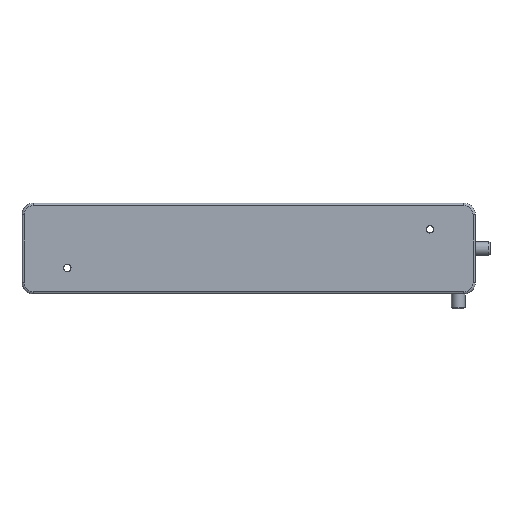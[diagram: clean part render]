
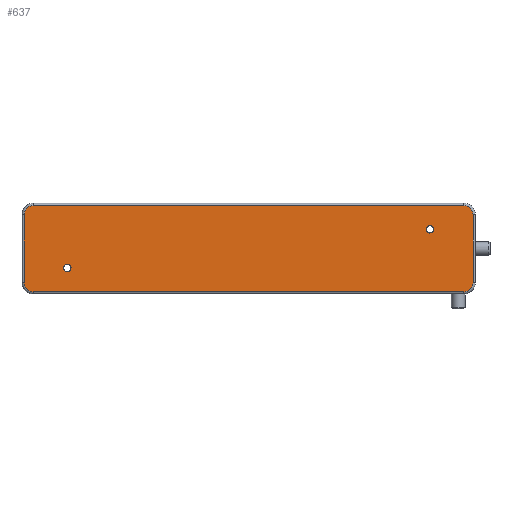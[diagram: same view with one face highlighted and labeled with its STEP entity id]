
A CAD part, top view. The second image highlights one B-rep face of the part: STEP entity #637.
In plain terms, the highlighted planar face has unit normal (0, 0, 1).
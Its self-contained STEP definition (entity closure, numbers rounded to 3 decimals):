
#14 = VERTEX_POINT ( 'NONE', #711 ) ;
#36 = ORIENTED_EDGE ( 'NONE', *, *, #1082, .T. ) ;
#38 = DIRECTION ( 'NONE',  ( 1., 0., 0. ) ) ;
#48 = EDGE_CURVE ( 'NONE', #427, #188, #1157, .T. ) ;
#54 = ORIENTED_EDGE ( 'NONE', *, *, #1092, .T. ) ;
#57 = DIRECTION ( 'NONE',  ( 0., 0., 1. ) ) ;
#68 = CARTESIAN_POINT ( 'NONE',  ( 10., 10., 12.5 ) ) ;
#92 = DIRECTION ( 'NONE',  ( 1., 0., 0. ) ) ;
#96 = AXIS2_PLACEMENT_3D ( 'NONE', #418, #235, #702 ) ;
#99 = CIRCLE ( 'NONE', #96, 8. ) ;
#109 = CARTESIAN_POINT ( 'NONE',  ( 390., 70., 12.5 ) ) ;
#128 = VERTEX_POINT ( 'NONE', #1058 ) ;
#141 = FACE_BOUND ( 'NONE', #499, .T. ) ;
#142 = EDGE_CURVE ( 'NONE', #128, #780, #902, .T. ) ;
#143 = CARTESIAN_POINT ( 'NONE',  ( 360., 57., 12.5 ) ) ;
#182 = EDGE_CURVE ( 'NONE', #1138, #14, #1043, .T. ) ;
#188 = VERTEX_POINT ( 'NONE', #807 ) ;
#200 = AXIS2_PLACEMENT_3D ( 'NONE', #480, #1015, #38 ) ;
#229 = CIRCLE ( 'NONE', #200, 3.25 ) ;
#235 = DIRECTION ( 'NONE',  ( 0., 0., 1. ) ) ;
#260 = EDGE_CURVE ( 'NONE', #551, #551, #229, .T. ) ;
#264 = ORIENTED_EDGE ( 'NONE', *, *, #142, .T. ) ;
#270 = ORIENTED_EDGE ( 'NONE', *, *, #182, .T. ) ;
#272 = CARTESIAN_POINT ( 'NONE',  ( 2., 70., 12.5 ) ) ;
#291 = DIRECTION ( 'NONE',  ( 0., 0., 1. ) ) ;
#300 = DIRECTION ( 'NONE',  ( -1., 0., 0. ) ) ;
#304 = ORIENTED_EDGE ( 'NONE', *, *, #915, .T. ) ;
#309 = PLANE ( 'NONE',  #405 ) ;
#318 = CARTESIAN_POINT ( 'NONE',  ( 43.25, 23., 12.5 ) ) ;
#347 = CARTESIAN_POINT ( 'NONE',  ( 0., 2., 12.5 ) ) ;
#355 = CARTESIAN_POINT ( 'NONE',  ( 0., 78., 12.5 ) ) ;
#357 = CARTESIAN_POINT ( 'NONE',  ( 2., 0., 12.5 ) ) ;
#396 = CARTESIAN_POINT ( 'NONE',  ( 363.25, 57., 12.5 ) ) ;
#405 = AXIS2_PLACEMENT_3D ( 'NONE', #832, #568, #300 ) ;
#418 = CARTESIAN_POINT ( 'NONE',  ( 10., 70., 12.5 ) ) ;
#426 = DIRECTION ( 'NONE',  ( -1., 0., 0. ) ) ;
#427 = VERTEX_POINT ( 'NONE', #272 ) ;
#474 = DIRECTION ( 'NONE',  ( -1., 0., 0. ) ) ;
#475 = AXIS2_PLACEMENT_3D ( 'NONE', #143, #57, #846 ) ;
#479 = VECTOR ( 'NONE', #710, 1000. ) ;
#480 = CARTESIAN_POINT ( 'NONE',  ( 40., 23., 12.5 ) ) ;
#498 = ORIENTED_EDGE ( 'NONE', *, *, #260, .F. ) ;
#499 = EDGE_LOOP ( 'NONE', ( #517 ) ) ;
#517 = ORIENTED_EDGE ( 'NONE', *, *, #1153, .F. ) ;
#525 = DIRECTION ( 'NONE',  ( 0., 0., 1. ) ) ;
#535 = CARTESIAN_POINT ( 'NONE',  ( 398., 70., 12.5 ) ) ;
#551 = VERTEX_POINT ( 'NONE', #318 ) ;
#563 = FACE_BOUND ( 'NONE', #724, .T. ) ;
#568 = DIRECTION ( 'NONE',  ( 0., 0., -1. ) ) ;
#608 = VERTEX_POINT ( 'NONE', #665 ) ;
#611 = VECTOR ( 'NONE', #633, 1000. ) ;
#614 = DIRECTION ( 'NONE',  ( 0., -1., 0. ) ) ;
#629 = FACE_OUTER_BOUND ( 'NONE', #1090, .T. ) ;
#633 = DIRECTION ( 'NONE',  ( 0., 1., 0. ) ) ;
#637 = ADVANCED_FACE ( 'NONE', ( #629, #563, #141 ), #309, .F. ) ;
#665 = CARTESIAN_POINT ( 'NONE',  ( 398., 10., 12.5 ) ) ;
#670 = AXIS2_PLACEMENT_3D ( 'NONE', #1137, #525, #426 ) ;
#698 = DIRECTION ( 'NONE',  ( 0., 0., 1. ) ) ;
#702 = DIRECTION ( 'NONE',  ( -1., 0., 0. ) ) ;
#710 = DIRECTION ( 'NONE',  ( -1., 0., 0. ) ) ;
#711 = CARTESIAN_POINT ( 'NONE',  ( 390., 78., 12.5 ) ) ;
#724 = EDGE_LOOP ( 'NONE', ( #498 ) ) ;
#752 = LINE ( 'NONE', #989, #611 ) ;
#755 = VECTOR ( 'NONE', #614, 1000. ) ;
#762 = CARTESIAN_POINT ( 'NONE',  ( 390., 2., 12.5 ) ) ;
#764 = VERTEX_POINT ( 'NONE', #396 ) ;
#775 = CIRCLE ( 'NONE', #670, 8. ) ;
#780 = VERTEX_POINT ( 'NONE', #762 ) ;
#788 = AXIS2_PLACEMENT_3D ( 'NONE', #109, #291, #474 ) ;
#807 = CARTESIAN_POINT ( 'NONE',  ( 2., 10., 12.5 ) ) ;
#832 = CARTESIAN_POINT ( 'NONE',  ( 0., 0., 12.5 ) ) ;
#846 = DIRECTION ( 'NONE',  ( 1., 0., 0. ) ) ;
#850 = CARTESIAN_POINT ( 'NONE',  ( 10., 78., 12.5 ) ) ;
#853 = EDGE_CURVE ( 'NONE', #188, #128, #1066, .T. ) ;
#891 = EDGE_CURVE ( 'NONE', #780, #608, #775, .T. ) ;
#898 = LINE ( 'NONE', #355, #479 ) ;
#902 = LINE ( 'NONE', #347, #1127 ) ;
#913 = ORIENTED_EDGE ( 'NONE', *, *, #48, .T. ) ;
#915 = EDGE_CURVE ( 'NONE', #1019, #427, #99, .T. ) ;
#989 = CARTESIAN_POINT ( 'NONE',  ( 398., 0., 12.5 ) ) ;
#1007 = ORIENTED_EDGE ( 'NONE', *, *, #891, .T. ) ;
#1015 = DIRECTION ( 'NONE',  ( 0., 0., 1. ) ) ;
#1019 = VERTEX_POINT ( 'NONE', #850 ) ;
#1043 = CIRCLE ( 'NONE', #788, 8. ) ;
#1046 = DIRECTION ( 'NONE',  ( -1., 0., 0. ) ) ;
#1058 = CARTESIAN_POINT ( 'NONE',  ( 10., 2., 12.5 ) ) ;
#1066 = CIRCLE ( 'NONE', #1081, 8. ) ;
#1081 = AXIS2_PLACEMENT_3D ( 'NONE', #68, #698, #1046 ) ;
#1082 = EDGE_CURVE ( 'NONE', #608, #1138, #752, .T. ) ;
#1090 = EDGE_LOOP ( 'NONE', ( #913, #1114, #264, #1007, #36, #270, #54, #304 ) ) ;
#1092 = EDGE_CURVE ( 'NONE', #14, #1019, #898, .T. ) ;
#1114 = ORIENTED_EDGE ( 'NONE', *, *, #853, .T. ) ;
#1123 = CIRCLE ( 'NONE', #475, 3.25 ) ;
#1127 = VECTOR ( 'NONE', #92, 1000. ) ;
#1137 = CARTESIAN_POINT ( 'NONE',  ( 390., 10., 12.5 ) ) ;
#1138 = VERTEX_POINT ( 'NONE', #535 ) ;
#1153 = EDGE_CURVE ( 'NONE', #764, #764, #1123, .T. ) ;
#1157 = LINE ( 'NONE', #357, #755 ) ;
